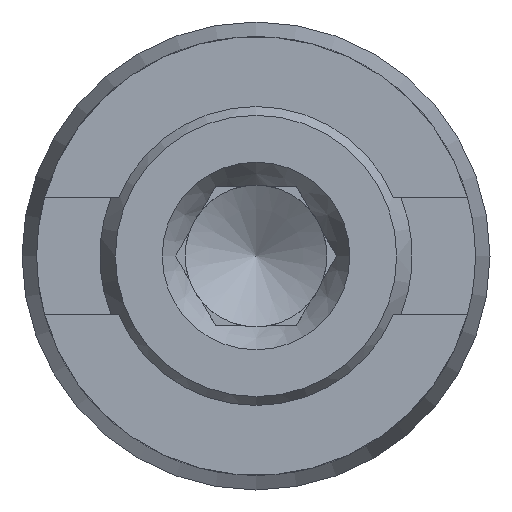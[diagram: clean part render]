
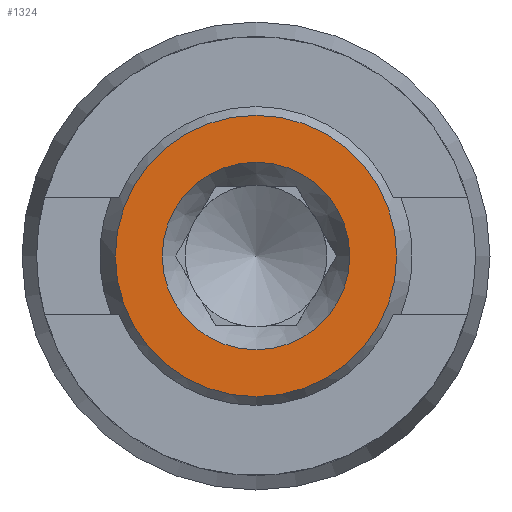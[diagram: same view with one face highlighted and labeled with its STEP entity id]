
A CAD part, front view. The second image highlights one B-rep face of the part: STEP entity #1324.
In plain terms, the highlighted planar face has unit normal (0, -1, 0) as drawn and (-1, 0, 0) by its records, which use the part's own axes.
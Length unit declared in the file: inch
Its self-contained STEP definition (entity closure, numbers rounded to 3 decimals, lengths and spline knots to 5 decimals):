
#81 = DIRECTION ( 'NONE',  ( -1., 0., 0. ) ) ;
#115 = CIRCLE ( 'NONE', #909, 0.24 ) ;
#174 = CARTESIAN_POINT ( 'NONE',  ( 0., 0., 0.24 ) ) ;
#261 = ORIENTED_EDGE ( 'NONE', *, *, #1993, .F. ) ;
#282 = DIRECTION ( 'NONE',  ( 1., 0., 0. ) ) ;
#417 = VERTEX_POINT ( 'NONE', #3183 ) ;
#439 = VERTEX_POINT ( 'NONE', #174 ) ;
#551 = DIRECTION ( 'NONE',  ( 0., 0., 1. ) ) ;
#605 = PLANE ( 'NONE',  #1294 ) ;
#705 = CARTESIAN_POINT ( 'NONE',  ( 0., 0., 0. ) ) ;
#909 = AXIS2_PLACEMENT_3D ( 'NONE', #2582, #2541, #1340 ) ;
#1123 = CARTESIAN_POINT ( 'NONE',  ( 0., 0., 0. ) ) ;
#1207 = DIRECTION ( 'NONE',  ( 0., 0., -1. ) ) ;
#1294 = AXIS2_PLACEMENT_3D ( 'NONE', #705, #282, #1207 ) ;
#1324 = ADVANCED_FACE ( 'NONE', ( #3109, #2873 ), #605, .F. ) ;
#1340 = DIRECTION ( 'NONE',  ( 0., 0., 1. ) ) ;
#1426 = EDGE_LOOP ( 'NONE', ( #3247 ) ) ;
#1946 = EDGE_LOOP ( 'NONE', ( #261 ) ) ;
#1993 = EDGE_CURVE ( 'NONE', #417, #417, #2841, .T. ) ;
#2541 = DIRECTION ( 'NONE',  ( -1., 0., 0. ) ) ;
#2582 = CARTESIAN_POINT ( 'NONE',  ( 0., 0., 0. ) ) ;
#2634 = AXIS2_PLACEMENT_3D ( 'NONE', #1123, #81, #551 ) ;
#2841 = CIRCLE ( 'NONE', #2634, 0.16 ) ;
#2864 = EDGE_CURVE ( 'NONE', #439, #439, #115, .T. ) ;
#2873 = FACE_OUTER_BOUND ( 'NONE', #1426, .T. ) ;
#3109 = FACE_BOUND ( 'NONE', #1946, .T. ) ;
#3183 = CARTESIAN_POINT ( 'NONE',  ( 0., 0., 0.16 ) ) ;
#3247 = ORIENTED_EDGE ( 'NONE', *, *, #2864, .T. ) ;
